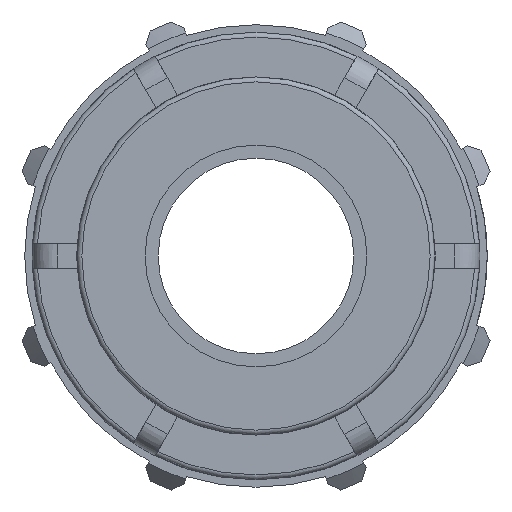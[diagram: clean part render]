
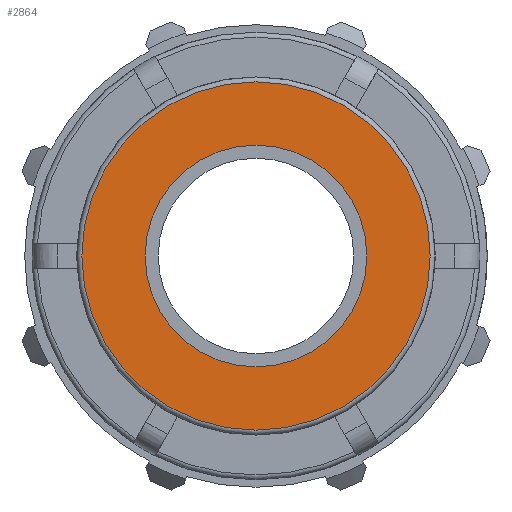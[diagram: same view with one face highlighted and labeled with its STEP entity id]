
A CAD part, left-side view. The second image highlights one B-rep face of the part: STEP entity #2864.
In plain terms, the highlighted planar face has unit normal (-1, 0, 0).
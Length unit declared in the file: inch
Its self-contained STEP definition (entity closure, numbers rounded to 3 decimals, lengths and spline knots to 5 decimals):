
#66=FACE_BOUND('',#814,.T.);
#549=PLANE('',#3106);
#659=FACE_OUTER_BOUND('',#813,.T.);
#813=EDGE_LOOP('',(#2161,#2162));
#814=EDGE_LOOP('',(#2163,#2164));
#973=CIRCLE('',#3103,0.74586);
#974=CIRCLE('',#3104,0.74586);
#976=CIRCLE('',#3107,0.47474);
#977=CIRCLE('',#3108,0.47474);
#1224=VERTEX_POINT('',#4779);
#1225=VERTEX_POINT('',#4781);
#1226=VERTEX_POINT('',#4786);
#1227=VERTEX_POINT('',#4787);
#1570=EDGE_CURVE('',#1224,#1225,#973,.T.);
#1571=EDGE_CURVE('',#1225,#1224,#974,.T.);
#1573=EDGE_CURVE('',#1226,#1227,#976,.T.);
#1574=EDGE_CURVE('',#1227,#1226,#977,.T.);
#2161=ORIENTED_EDGE('',*,*,#1571,.F.);
#2162=ORIENTED_EDGE('',*,*,#1570,.F.);
#2163=ORIENTED_EDGE('',*,*,#1573,.T.);
#2164=ORIENTED_EDGE('',*,*,#1574,.T.);
#2864=ADVANCED_FACE('',(#659,#66),#549,.T.);
#3103=AXIS2_PLACEMENT_3D('',#4782,#3631,#3632);
#3104=AXIS2_PLACEMENT_3D('',#4783,#3633,#3634);
#3106=AXIS2_PLACEMENT_3D('',#4785,#3637,#3638);
#3107=AXIS2_PLACEMENT_3D('',#4788,#3639,#3640);
#3108=AXIS2_PLACEMENT_3D('',#4789,#3641,#3642);
#3631=DIRECTION('center_axis',(1.,0.,0.));
#3632=DIRECTION('ref_axis',(0.,-1.,0.));
#3633=DIRECTION('center_axis',(1.,0.,0.));
#3634=DIRECTION('ref_axis',(0.,-1.,0.));
#3637=DIRECTION('center_axis',(-1.,0.,0.));
#3638=DIRECTION('ref_axis',(0.,0.,1.));
#3639=DIRECTION('center_axis',(1.,0.,0.));
#3640=DIRECTION('ref_axis',(0.,0.,-1.));
#3641=DIRECTION('center_axis',(1.,0.,0.));
#3642=DIRECTION('ref_axis',(0.,0.,-1.));
#4779=CARTESIAN_POINT('',(0.,0.,0.74586));
#4781=CARTESIAN_POINT('',(0.,0.74586,0.));
#4782=CARTESIAN_POINT('Origin',(0.,0.,0.));
#4783=CARTESIAN_POINT('Origin',(0.,0.,0.));
#4785=CARTESIAN_POINT('Origin',(0.,0.7668,0.));
#4786=CARTESIAN_POINT('',(0.,0.47474,0.));
#4787=CARTESIAN_POINT('',(0.,-0.47474,0.));
#4788=CARTESIAN_POINT('Origin',(0.,0.,0.));
#4789=CARTESIAN_POINT('Origin',(0.,0.,0.));
